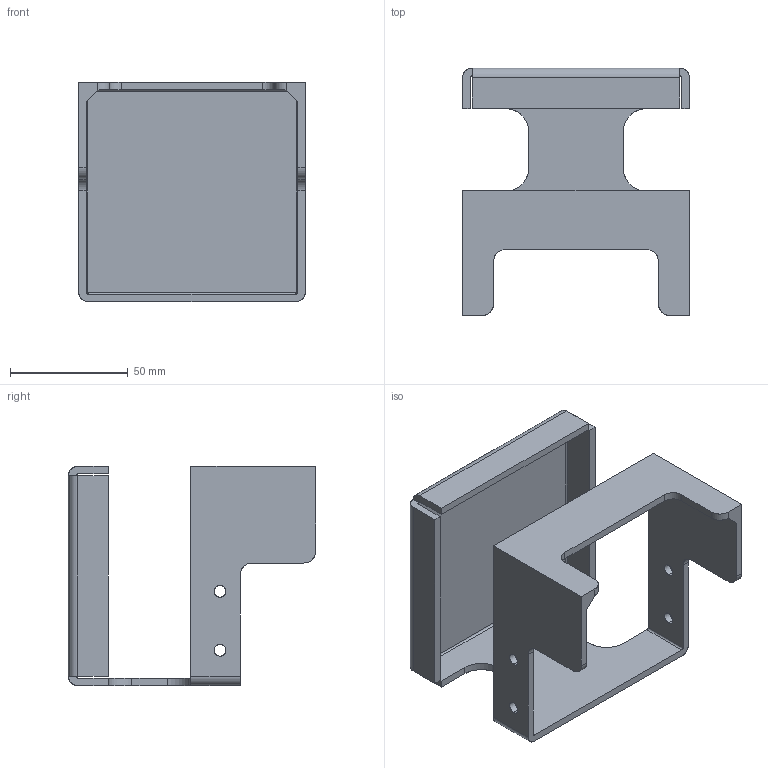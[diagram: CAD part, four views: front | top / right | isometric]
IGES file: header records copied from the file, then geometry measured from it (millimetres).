
Start section: SolidWorks IGES file using analytic representation for surfaces
Global section: file name: HC:\Users\Administrator\Desktop\UZ00103.IGS; native system: SolidWorks 2020; preprocessor: SolidWorks 2020; author: Administrator; date: 200915.175158; units: millimetre
Bounding box: 96.2 x 105 x 93 mm (x, y, z)
Surface area: 55848.5 mm2 (no closed solid volume)
Topology: 0 solids, 0 shells, 80 faces, 972 edges, 972 vertices
Faces by surface type: bspline 48, revolution 32
